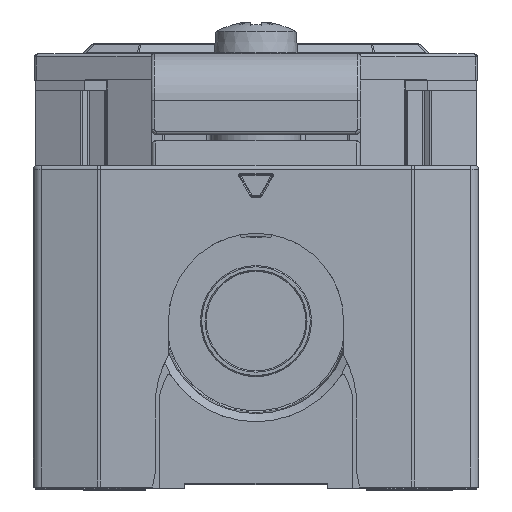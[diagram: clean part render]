
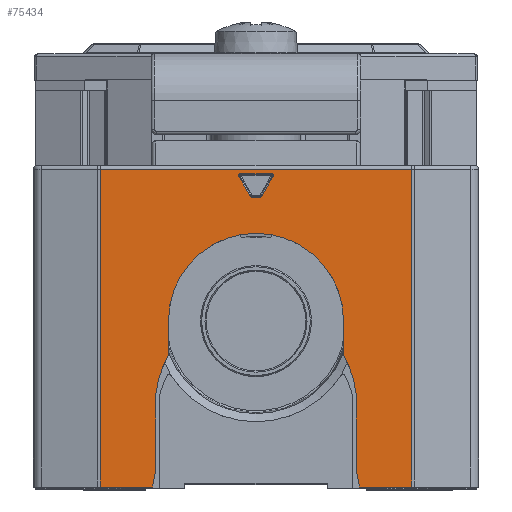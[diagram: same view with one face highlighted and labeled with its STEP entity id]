
A CAD part, top view. The second image highlights one B-rep face of the part: STEP entity #75434.
In plain terms, the highlighted planar face has unit normal (0, 0, 1).
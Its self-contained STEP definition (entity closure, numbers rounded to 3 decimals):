
#21317=DIRECTION('',(1.,0.,0.));
#21318=VECTOR('',#21317,5.004);
#21319=CARTESIAN_POINT('',(-14.868,-15.85,0.));
#21320=LINE('',#21319,#21318);
#22771=DIRECTION('',(1.,0.,0.));
#22772=VECTOR('',#22771,5.004);
#22773=CARTESIAN_POINT('',(9.865,-15.85,0.));
#22774=LINE('',#22773,#22772);
#24254=DIRECTION('',(0.,1.,0.));
#24255=VECTOR('',#24254,30.3);
#24256=CARTESIAN_POINT('',(14.868,-15.85,0.));
#24257=LINE('',#24256,#24255);
#24261=DIRECTION('',(-0.18,0.984,0.));
#24262=VECTOR('',#24261,1.525);
#24263=CARTESIAN_POINT('',(9.865,-15.85,0.));
#24264=LINE('',#24263,#24262);
#24268=DIRECTION('',(-0.006,1.,0.));
#24269=VECTOR('',#24268,7.385);
#24270=CARTESIAN_POINT('',(9.591,-14.35,0.));
#24271=LINE('',#24270,#24269);
#24275=CARTESIAN_POINT('',(0.,-8.,0.));
#24276=DIRECTION('',(0.,0.,1.));
#24277=DIRECTION('',(0.994,0.108,0.));
#24278=AXIS2_PLACEMENT_3D('',#24275,#24276,#24277);
#24283=DIRECTION('',(-0.009,1.,0.));
#24284=VECTOR('',#24283,3.388);
#24285=CARTESIAN_POINT('',(8.379,-3.315,0.));
#24286=LINE('',#24285,#24284);
#24290=CARTESIAN_POINT('',(0.,0.,0.));
#24291=DIRECTION('',(0.,0.,1.));
#24292=DIRECTION('',(1.,0.009,0.));
#24293=AXIS2_PLACEMENT_3D('',#24290,#24291,#24292);
#24298=DIRECTION('',(0.009,1.,0.));
#24299=VECTOR('',#24298,3.388);
#24300=CARTESIAN_POINT('',(-8.379,-3.315,0.));
#24301=LINE('',#24300,#24299);
#24305=CARTESIAN_POINT('',(0.,-8.,0.));
#24306=DIRECTION('',(0.,0.,1.));
#24307=DIRECTION('',(-0.873,0.488,0.));
#24308=AXIS2_PLACEMENT_3D('',#24305,#24306,#24307);
#24313=DIRECTION('',(0.006,1.,0.));
#24314=VECTOR('',#24313,7.385);
#24315=CARTESIAN_POINT('',(-9.591,-14.35,0.));
#24316=LINE('',#24315,#24314);
#24320=DIRECTION('',(-0.18,-0.984,0.));
#24321=VECTOR('',#24320,1.525);
#24322=CARTESIAN_POINT('',(-9.591,-14.35,0.));
#24323=LINE('',#24322,#24321);
#24327=DIRECTION('',(0.,-1.,0.));
#24328=VECTOR('',#24327,30.3);
#24329=CARTESIAN_POINT('',(-14.868,14.45,0.));
#24330=LINE('',#24329,#24328);
#24334=CARTESIAN_POINT('',(-1.439,13.85,0.));
#24335=DIRECTION('',(0.,0.,-1.));
#24336=DIRECTION('',(-0.866,-0.5,0.));
#24337=AXIS2_PLACEMENT_3D('',#24334,#24335,#24336);
#24342=DIRECTION('',(-0.5,0.866,0.));
#24343=VECTOR('',#24342,2.194);
#24344=CARTESIAN_POINT('',(-0.515,11.85,0.));
#24345=LINE('',#24344,#24343);
#24349=CARTESIAN_POINT('',(-0.342,11.95,0.));
#24350=DIRECTION('',(0.,0.,-1.));
#24351=DIRECTION('',(0.,-1.,0.));
#24352=AXIS2_PLACEMENT_3D('',#24349,#24350,#24351);
#24357=DIRECTION('',(-1.,0.,0.));
#24358=VECTOR('',#24357,0.685);
#24359=CARTESIAN_POINT('',(0.342,11.75,0.));
#24360=LINE('',#24359,#24358);
#24364=CARTESIAN_POINT('',(0.342,11.95,0.));
#24365=DIRECTION('',(0.,0.,-1.));
#24366=DIRECTION('',(0.866,-0.5,0.));
#24367=AXIS2_PLACEMENT_3D('',#24364,#24365,#24366);
#24372=DIRECTION('',(-0.5,-0.866,0.));
#24373=VECTOR('',#24372,2.194);
#24374=CARTESIAN_POINT('',(1.612,13.75,0.));
#24375=LINE('',#24374,#24373);
#24379=CARTESIAN_POINT('',(1.439,13.85,0.));
#24380=DIRECTION('',(0.,0.,-1.));
#24381=DIRECTION('',(0.,1.,0.));
#24382=AXIS2_PLACEMENT_3D('',#24379,#24380,#24381);
#24387=DIRECTION('',(1.,0.,0.));
#24388=VECTOR('',#24387,2.878);
#24389=CARTESIAN_POINT('',(-1.439,14.05,0.));
#24390=LINE('',#24389,#24388);
#24416=DIRECTION('',(-1.,0.,0.));
#24417=VECTOR('',#24416,29.737);
#24418=CARTESIAN_POINT('',(14.868,14.45,0.));
#24419=LINE('',#24418,#24417);
#44951=CARTESIAN_POINT('',(8.35,0.073,0.));
#44952=CARTESIAN_POINT('',(-8.35,0.073,0.));
#44953=VERTEX_POINT('',#44951);
#44954=VERTEX_POINT('',#44952);
#44963=CARTESIAN_POINT('',(9.544,-6.965,0.));
#44964=CARTESIAN_POINT('',(8.379,-3.315,0.));
#44965=VERTEX_POINT('',#44963);
#44966=VERTEX_POINT('',#44964);
#44967=CARTESIAN_POINT('',(-8.379,-3.315,0.));
#44968=CARTESIAN_POINT('',(-9.544,-6.965,0.));
#44969=VERTEX_POINT('',#44967);
#44970=VERTEX_POINT('',#44968);
#45482=CARTESIAN_POINT('',(14.868,-15.85,0.));
#45483=VERTEX_POINT('',#45482);
#45484=CARTESIAN_POINT('',(14.868,14.45,0.));
#45485=VERTEX_POINT('',#45484);
#45488=CARTESIAN_POINT('',(-14.868,-15.85,0.));
#45489=VERTEX_POINT('',#45488);
#45490=CARTESIAN_POINT('',(-14.868,14.45,0.));
#45491=VERTEX_POINT('',#45490);
#45588=CARTESIAN_POINT('',(-1.612,13.75,0.));
#45589=CARTESIAN_POINT('',(-1.439,14.05,0.));
#45590=VERTEX_POINT('',#45588);
#45591=VERTEX_POINT('',#45589);
#45596=CARTESIAN_POINT('',(1.439,14.05,0.));
#45597=VERTEX_POINT('',#45596);
#45600=CARTESIAN_POINT('',(1.612,13.75,0.));
#45601=VERTEX_POINT('',#45600);
#45604=CARTESIAN_POINT('',(0.515,11.85,0.));
#45605=VERTEX_POINT('',#45604);
#45608=CARTESIAN_POINT('',(0.342,11.75,0.));
#45609=VERTEX_POINT('',#45608);
#45612=CARTESIAN_POINT('',(-0.342,11.75,0.));
#45613=VERTEX_POINT('',#45612);
#45616=CARTESIAN_POINT('',(-0.515,11.85,0.));
#45617=VERTEX_POINT('',#45616);
#45635=CARTESIAN_POINT('',(-9.865,-15.85,0.));
#45637=VERTEX_POINT('',#45635);
#45639=CARTESIAN_POINT('',(9.865,-15.85,0.));
#45641=VERTEX_POINT('',#45639);
#45642=CARTESIAN_POINT('',(-9.591,-14.35,0.));
#45643=VERTEX_POINT('',#45642);
#45644=CARTESIAN_POINT('',(9.591,-14.35,0.));
#45645=VERTEX_POINT('',#45644);
#75387=CARTESIAN_POINT('',(-21.,-15.85,0.));
#75388=DIRECTION('',(0.,0.,1.));
#75389=DIRECTION('',(1.,0.,0.));
#75390=AXIS2_PLACEMENT_3D('',#75387,#75388,#75389);
#75391=PLANE('',#75390);
#75393=ORIENTED_EDGE('',*,*,#75392,.F.);
#75395=ORIENTED_EDGE('',*,*,#75394,.F.);
#75396=ORIENTED_EDGE('',*,*,#74099,.F.);
#75398=ORIENTED_EDGE('',*,*,#75397,.T.);
#75400=ORIENTED_EDGE('',*,*,#75399,.T.);
#75402=ORIENTED_EDGE('',*,*,#75401,.T.);
#75404=ORIENTED_EDGE('',*,*,#75403,.T.);
#75406=ORIENTED_EDGE('',*,*,#75405,.T.);
#75407=ORIENTED_EDGE('',*,*,#75319,.F.);
#75408=ORIENTED_EDGE('',*,*,#75335,.T.);
#75409=ORIENTED_EDGE('',*,*,#75361,.F.);
#75410=ORIENTED_EDGE('',*,*,#75379,.T.);
#75411=ORIENTED_EDGE('',*,*,#73131,.F.);
#75413=ORIENTED_EDGE('',*,*,#75412,.F.);
#75414=EDGE_LOOP('',(#75393,#75395,#75396,#75398,#75400,#75402,#75404,#75406,
#75407,#75408,#75409,#75410,#75411,#75413));
#75415=FACE_OUTER_BOUND('',#75414,.F.);
#75417=ORIENTED_EDGE('',*,*,#75416,.F.);
#75419=ORIENTED_EDGE('',*,*,#75418,.F.);
#75421=ORIENTED_EDGE('',*,*,#75420,.F.);
#75423=ORIENTED_EDGE('',*,*,#75422,.F.);
#75425=ORIENTED_EDGE('',*,*,#75424,.F.);
#75427=ORIENTED_EDGE('',*,*,#75426,.F.);
#75429=ORIENTED_EDGE('',*,*,#75428,.F.);
#75431=ORIENTED_EDGE('',*,*,#75430,.F.);
#75432=EDGE_LOOP('',(#75417,#75419,#75421,#75423,#75425,#75427,#75429,#75431));
#75433=FACE_BOUND('',#75432,.F.);
#24279=CIRCLE('',#24278,9.6);
#24294=CIRCLE('',#24293,8.35);
#24309=CIRCLE('',#24308,9.6);
#24338=CIRCLE('',#24337,0.2);
#24353=CIRCLE('',#24352,0.2);
#24368=CIRCLE('',#24367,0.2);
#24383=CIRCLE('',#24382,0.2);
#73131=EDGE_CURVE('',#45489,#45637,#21320,.T.);
#74099=EDGE_CURVE('',#45641,#45483,#22774,.T.);
#75319=EDGE_CURVE('',#44969,#44954,#24301,.T.);
#75335=EDGE_CURVE('',#44969,#44970,#24309,.T.);
#75361=EDGE_CURVE('',#45643,#44970,#24316,.T.);
#75379=EDGE_CURVE('',#45643,#45637,#24323,.T.);
#75392=EDGE_CURVE('',#45485,#45491,#24419,.T.);
#75394=EDGE_CURVE('',#45483,#45485,#24257,.T.);
#75397=EDGE_CURVE('',#45641,#45645,#24264,.T.);
#75399=EDGE_CURVE('',#45645,#44965,#24271,.T.);
#75401=EDGE_CURVE('',#44965,#44966,#24279,.T.);
#75403=EDGE_CURVE('',#44966,#44953,#24286,.T.);
#75405=EDGE_CURVE('',#44953,#44954,#24294,.T.);
#75412=EDGE_CURVE('',#45491,#45489,#24330,.T.);
#75416=EDGE_CURVE('',#45590,#45591,#24338,.T.);
#75418=EDGE_CURVE('',#45617,#45590,#24345,.T.);
#75420=EDGE_CURVE('',#45613,#45617,#24353,.T.);
#75422=EDGE_CURVE('',#45609,#45613,#24360,.T.);
#75424=EDGE_CURVE('',#45605,#45609,#24368,.T.);
#75426=EDGE_CURVE('',#45601,#45605,#24375,.T.);
#75428=EDGE_CURVE('',#45597,#45601,#24383,.T.);
#75430=EDGE_CURVE('',#45591,#45597,#24390,.T.);
#75434=ADVANCED_FACE('',(#75415,#75433),#75391,.T.);
